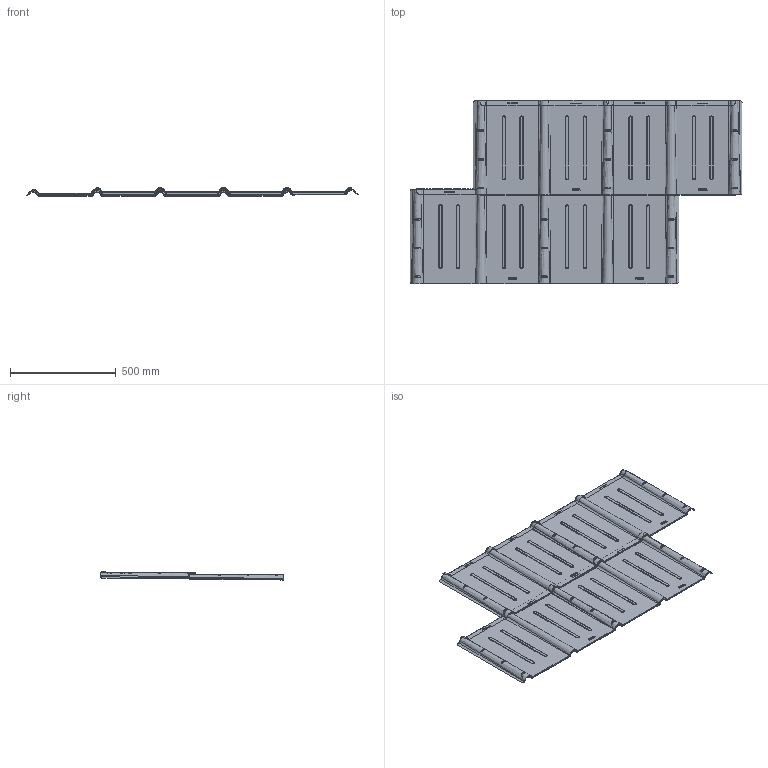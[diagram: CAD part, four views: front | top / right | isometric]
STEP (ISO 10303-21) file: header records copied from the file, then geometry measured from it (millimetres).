
FILE_DESCRIPTION(/* description */ (''),/* implementation_level */ '2;1');
FILE_NAME(/* name */ 'PREFA_~1',/* time_stamp */ '2020-07-21T10:49:39+02:00',/* author */ (''),/* organization */ (''),/* preprocessor_version */ 'ST-DEVELOPER v15',/* originating_system */ '',/* authorisation */ '');
FILE_SCHEMA (('AUTOMOTIVE_DESIGN'));
Products named in the file (1): Document
Bounding box: 1571.12 x 870.63 x 41.37 mm (x, y, z)
Surface area: 1432516.8 mm2 (no closed solid volume)
Topology: 0 solids, 1512 shells, 1512 faces, 7114 edges, 7124 vertices
Faces by surface type: bspline 1248, plane 264
Entity records: 112235 total; most frequent: CARTESIAN_POINT 74575, ORIENTED_EDGE 7112, EDGE_CURVE 7112, VERTEX_POINT 7108, B_SPLINE_CURVE_WITH_KNOTS 5754, EDGE_LOOP 1592, PRESENTATION_LAYER_ASSIGNMENT 1522, SHELL_BASED_SURFACE_MODEL 1512
